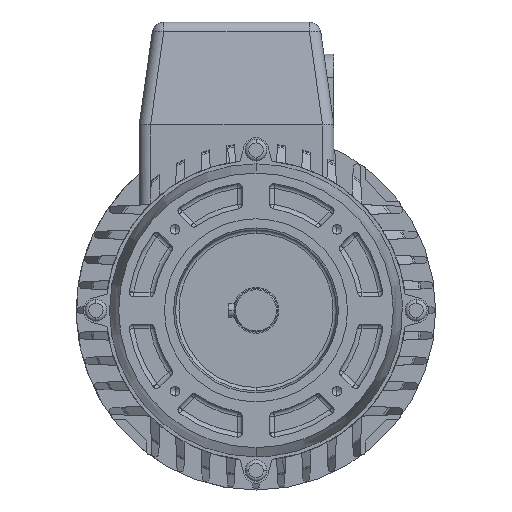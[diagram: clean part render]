
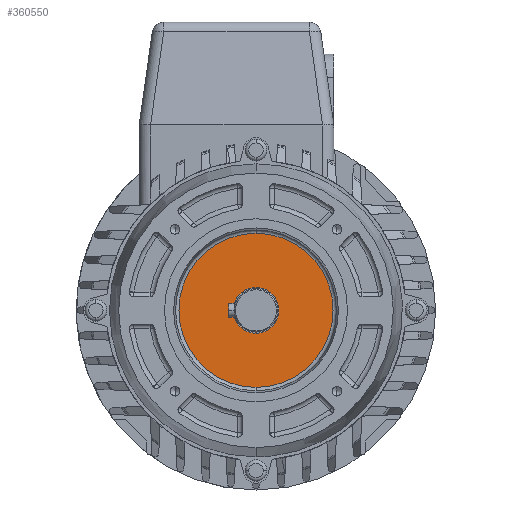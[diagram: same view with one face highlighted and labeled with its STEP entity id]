
A CAD part, left-side view. The second image highlights one B-rep face of the part: STEP entity #360550.
In plain terms, the highlighted planar face has unit normal (-1, 0, 0).
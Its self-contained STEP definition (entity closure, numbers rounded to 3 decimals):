
#360060=CARTESIAN_POINT('',(845.242,425.686,
17.81));
#360070=VERTEX_POINT('',#360060);
#360100=CARTESIAN_POINT('',(845.242,425.686,
51.494));
#360110=DIRECTION('',(-1.,0.,0.));
#360120=DIRECTION('',(0.,0.,1.));
#360130=AXIS2_PLACEMENT_3D('',#360100,#360110,#360120);
#360140=CIRCLE('',#360130,33.683);
#360150=CARTESIAN_POINT('',(845.242,425.686,
85.177));
#360160=VERTEX_POINT('',#360150);
#360170=EDGE_CURVE('',#360070,#360160,#360140,.T.);
#360300=CARTESIAN_POINT('',(845.242,425.686,
74.115));
#360310=DIRECTION('',(1.,0.,0.));
#360320=DIRECTION('',(0.,0.,-1.));
#360330=AXIS2_PLACEMENT_3D('',#360300,#360310,#360320);
#360340=PLANE('',#360330);
#360350=EDGE_CURVE('',#360160,#360070,#360140,.T.);
#360360=ORIENTED_EDGE('',*,*,#360350,.T.);
#360370=ORIENTED_EDGE('',*,*,#360170,.T.);
#360380=EDGE_LOOP('',(#360370,#360360));
#360390=FACE_OUTER_BOUND('',#360380,.T.);
#360400=CARTESIAN_POINT('',(845.242,425.686,
51.494));
#360410=DIRECTION('',(-1.,0.,0.));
#360420=DIRECTION('',(0.,0.,1.));
#360430=AXIS2_PLACEMENT_3D('',#360400,#360410,#360420);
#360440=CIRCLE('',#360430,10.);
#360450=CARTESIAN_POINT('',(845.242,425.686,
61.494));
#360460=VERTEX_POINT('',#360450);
#360470=CARTESIAN_POINT('',(845.242,425.686,
41.494));
#360480=VERTEX_POINT('',#360470);
#360490=EDGE_CURVE('',#360460,#360480,#360440,.T.);
#360500=ORIENTED_EDGE('',*,*,#360490,.F.);
#360510=EDGE_CURVE('',#360480,#360460,#360440,.T.);
#360520=ORIENTED_EDGE('',*,*,#360510,.F.);
#360530=EDGE_LOOP('',(#360520,#360500));
#360540=FACE_BOUND('',#360530,.T.);
#360550=ADVANCED_FACE('',(#360390,#360540),#360340,.F.);
